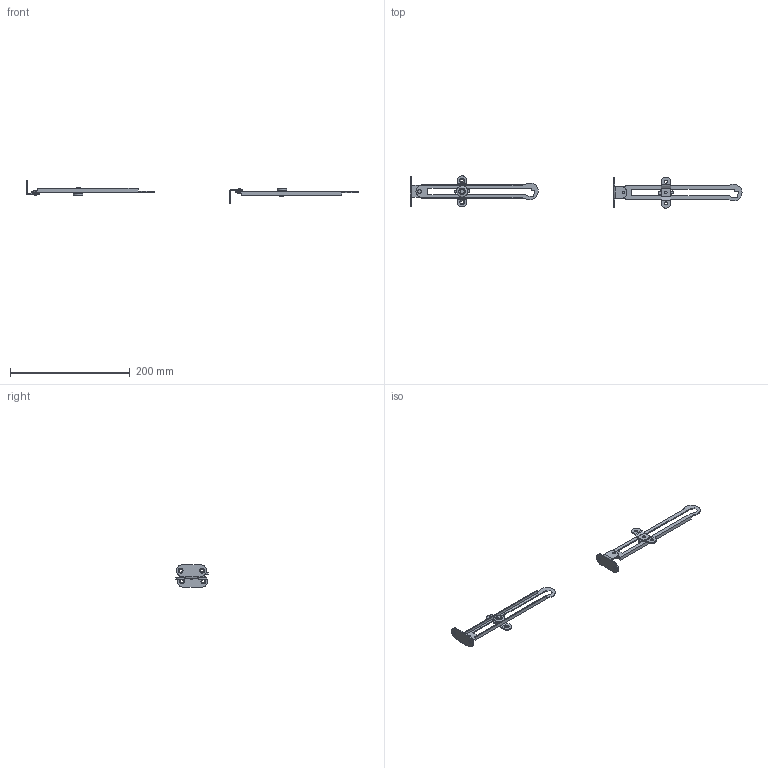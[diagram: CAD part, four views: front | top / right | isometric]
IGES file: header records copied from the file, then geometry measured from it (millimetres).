
Global section: file name: DR_SY-5-2; native system: Autodesk Inventor 2015; preprocessor: unknown; author: user; date: 20170920.163626; units: millimetre
Bounding box: 553.99 x 53.94 x 37.68 mm (x, y, z)
Volume: 23288.1 mm3; surface area: 32324.8 mm2
Topology: 10 solids, 10 shells, 210 faces, 560 edges, 388 vertices
Faces by surface type: bspline 210
